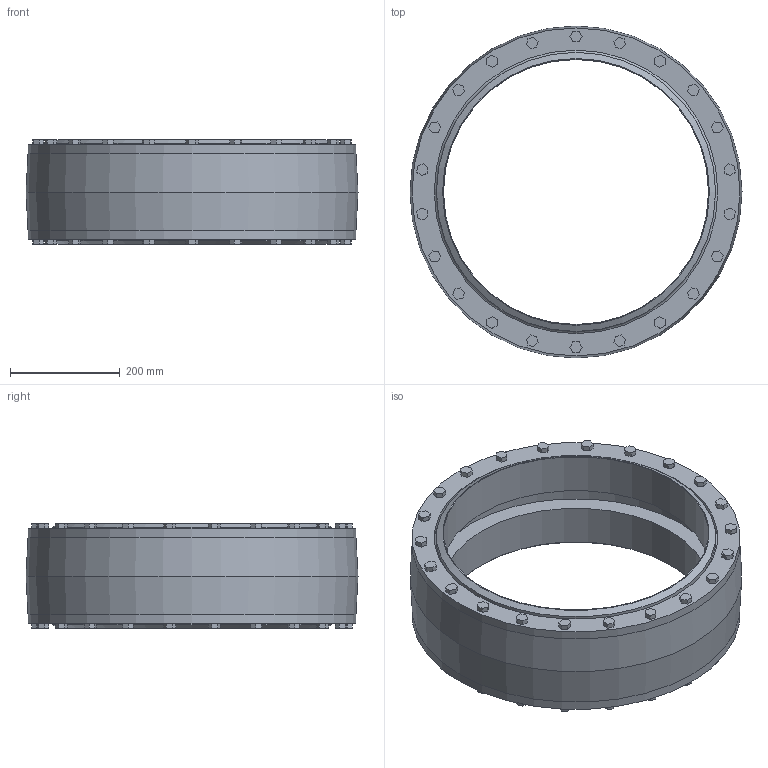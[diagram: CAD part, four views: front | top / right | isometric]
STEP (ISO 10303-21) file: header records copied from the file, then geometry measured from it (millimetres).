
FILE_DESCRIPTION(/* description */ ('VIC EXPANSION JOINT COUPLING 152-A','CAx-IF Rec.Pracs.---Representation and Presentation of Product Manufacturing Information (PMI)---4.0---2014-10-13'),/* implementation_level */ '2;1');
FILE_NAME(/* name */ 'C:\Users\kkamble\AppData\Roaming\Autodesk\ApplicationPlugins\Back Up\Victaulic_Vic-Ring_Coupling Expansion Joint_Style 152A (OGR)\Victaulic_Vic-Ring_Coupling Expansion Joint_Style 152A (OGR)_20 (500).stp',/* time_stamp */ '2020-09-10T11:34:03+05:00',/* author */ ('jheald'),/* organization */ ('Victaulic'),/* preprocessor_version */ 'ST-DEVELOPER v17.2',/* originating_system */ 'Autodesk Inventor 2019',/* authorisation */ '');
FILE_SCHEMA (('AP242_MANAGED_MODEL_BASED_3D_ENGINEERING_MIM_LF { 1 0 10303 442 1 1 4 }'));
Length unit declared in the file: inch
Products named in the file (1): 152A-20.0
Bounding box: 604.27 x 604.27 x 190.5 mm (x, y, z)
Volume: 14615015.6 mm3; surface area: 1485054.6 mm2
Topology: 1 solids, 1 shells, 345 faces, 891 edges, 604 vertices
Faces by surface type: plane 322, cylinder 15, cone 6, torus 2
Full cylindrical faces by diameter (mm): 482.6 x2, 508 x2, 516.128 x2, 522.478 x2, 543.052 x4, 546.1 x1, 596.9 x2
Entity records: 10900 total; most frequent: CARTESIAN_POINT 1858, ORIENTED_EDGE 1782, DIRECTION 1687, EDGE_CURVE 891, LINE 813, VECTOR 813, VERTEX_POINT 604, AXIS2_PLACEMENT_3D 437
